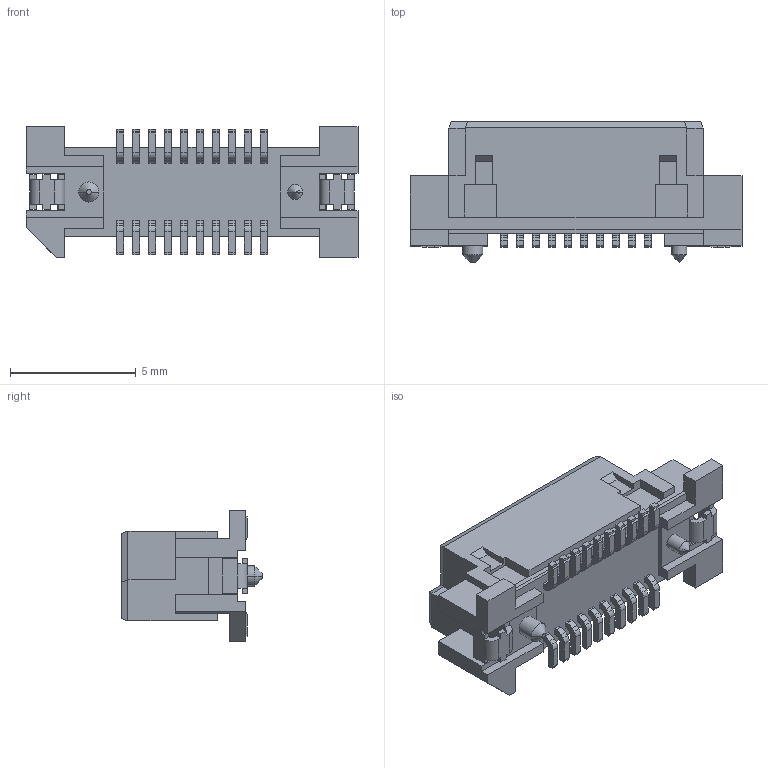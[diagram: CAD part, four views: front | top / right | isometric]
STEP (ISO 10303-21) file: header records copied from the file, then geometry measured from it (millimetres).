
FILE_DESCRIPTION(/* description */ (''),/* implementation_level */ '2;1');
FILE_NAME(/* name */ '0550910274_stp.stp',/* time_stamp */ '2026-03-12T08:26:55+05:30',/* author */ (''),/* organization */ (''),/* preprocessor_version */ 'ST-DEVELOPER v19.4',/* originating_system */ 'SIEMENS PLM Software NX2212.9160',/* authorisation */ '');
FILE_SCHEMA (('AUTOMOTIVE_DESIGN { 1 0 10303 214 3 1 1 1 }'));
Length unit declared in the file: millimetre
Products named in the file (1): 0550910274_stp
Bounding box: 13.22 x 5.6 x 5.2 mm (x, y, z)
Volume: 119.8 mm3; surface area: 392.7 mm2
Topology: 1 solids, 1 shells, 591 faces, 1765 edges, 1291 vertices
Faces by surface type: plane 495, cylinder 92, cone 4
Entity records: 19751 total; most frequent: CARTESIAN_POINT 3458, ORIENTED_EDGE 3338, DIRECTION 3153, EDGE_CURVE 1669, LINE 1557, VECTOR 1557, VERTEX_POINT 1103, AXIS2_PLACEMENT_3D 798
